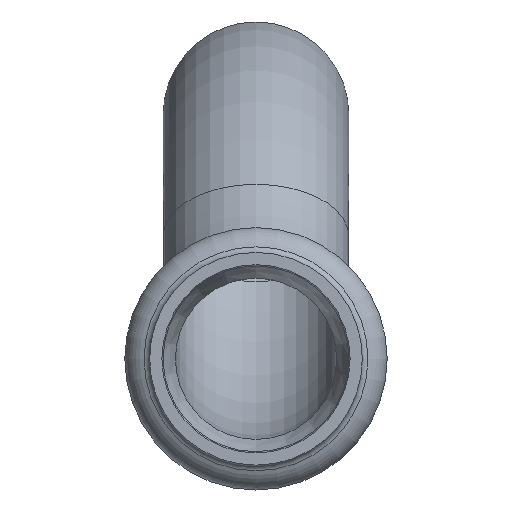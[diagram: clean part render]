
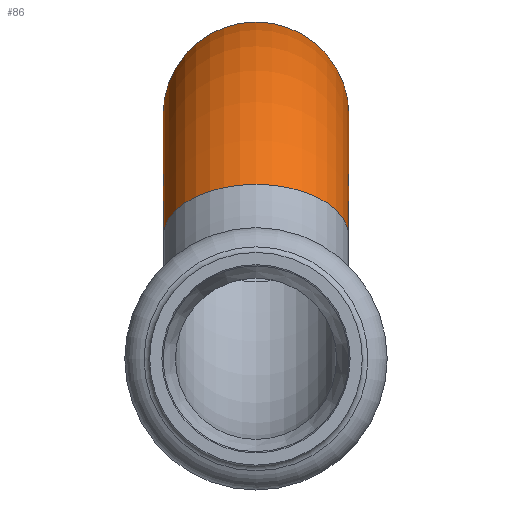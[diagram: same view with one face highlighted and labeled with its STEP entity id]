
A CAD part, front view. The second image highlights one B-rep face of the part: STEP entity #86.
In plain terms, the highlighted toroidal (fillet/blend) face has major radius 33 mm and minor radius 11 mm.
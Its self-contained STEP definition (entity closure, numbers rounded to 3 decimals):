
#86=ADVANCED_FACE('',(#228,#230),#232,.T.);
#228=FACE_OUTER_BOUND('',#229,.T.);
#229=EDGE_LOOP('',(#479));
#230=FACE_OUTER_BOUND('',#231,.T.);
#231=EDGE_LOOP('',(#480));
#232=TOROIDAL_SURFACE('',#233,33.,11.);
#233=AXIS2_PLACEMENT_3D('',#234,#235,#236);
#234=CARTESIAN_POINT('',(0.,88.,-4.));
#235=DIRECTION('',(-1.,0.,0.));
#236=DIRECTION('',(0.,-0.828,0.561));
#479=ORIENTED_EDGE('',*,*,#542,.F.);
#480=ORIENTED_EDGE('',*,*,#538,.T.);
#538=EDGE_CURVE('',#591,#591,#592,.T.);
#542=EDGE_CURVE('',#599,#599,#600,.T.);
#591=VERTEX_POINT('',#710);
#592=CIRCLE('',#711,11.);
#599=VERTEX_POINT('',#730);
#600=CIRCLE('',#731,11.);
#710=CARTESIAN_POINT('',(-11.,60.673,14.5));
#711=AXIS2_PLACEMENT_3D('',#712,#713,#714);
#712=CARTESIAN_POINT('',(0.,60.673,14.5));
#713=DIRECTION('',(0.,0.561,0.828));
#714=DIRECTION('',(-1.,0.,0.));
#730=CARTESIAN_POINT('',(-11.,115.327,14.5));
#731=AXIS2_PLACEMENT_3D('',#732,#733,#734);
#732=CARTESIAN_POINT('',(0.,115.327,14.5));
#733=DIRECTION('',(0.,0.561,-0.828));
#734=DIRECTION('',(-1.,0.,0.));
